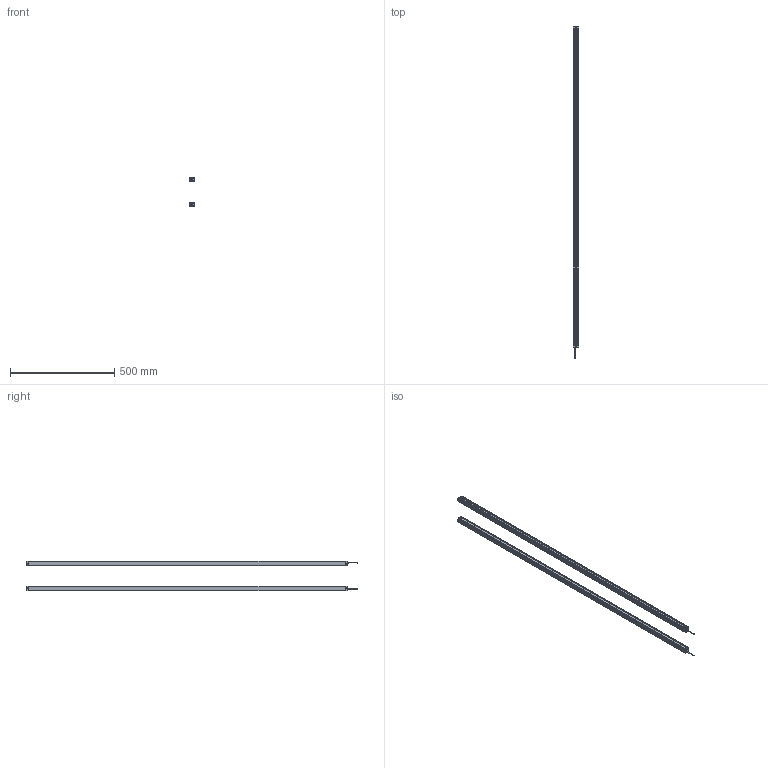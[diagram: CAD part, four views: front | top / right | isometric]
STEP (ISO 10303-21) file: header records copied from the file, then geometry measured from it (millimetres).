
FILE_DESCRIPTION(/* description */ (''),/* implementation_level */ '2;1');
FILE_NAME(/* name */ 'MTC3840.stp',/* time_stamp */ '2023-10-23T13:42:16+08:00',/* author */ (''),/* organization */ (''),/* preprocessor_version */ 'ST-DEVELOPER v16.7',/* originating_system */ 'SIEMENS PLM Software NX 12.0',/* authorisation */ '');
FILE_SCHEMA (('AP203_CONFIGURATION_CONTROLLED_3D_DESIGN_OF_MECHANICAL_PARTS_AND_ASSEMBLIES_MIM_LF { 1 0 10303 403 2 1 2}'));
Length unit declared in the file: millimetre
Products named in the file (5): P02^MTC; MTC waike^MTC; 镜向P02^MTC; P01^MTC; MTC3640_step
Assembly tree (6 placements, depth 2):
  MTC3640_step
    P01^MTC  x2
    镜向P02^MTC
    MTC waike^MTC  x2
    P02^MTC
Bounding box: 25 x 1592 x 141.4 mm (x, y, z)
Volume: 503184.6 mm3; surface area: 702147.3 mm2
Topology: 8 solids, 8 shells, 480 faces, 1396 edges, 924 vertices
Faces by surface type: plane 272, cylinder 208
Entity records: 11296 total; most frequent: DIRECTION 1877, CARTESIAN_POINT 1876, ORIENTED_EDGE 1846, EDGE_CURVE 923, AXIS2_PLACEMENT_3D 635, VERTEX_POINT 610, LINE 607, VECTOR 607
